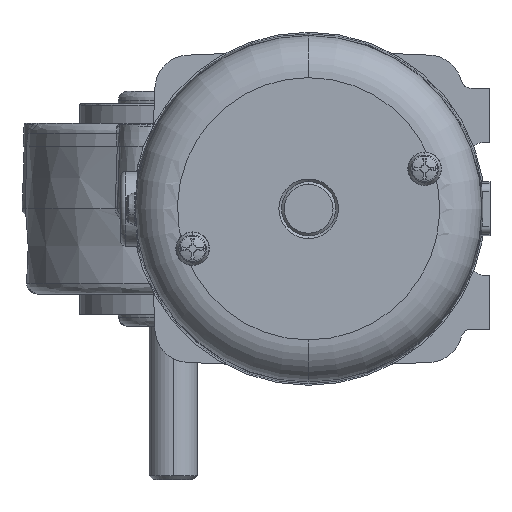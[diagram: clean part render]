
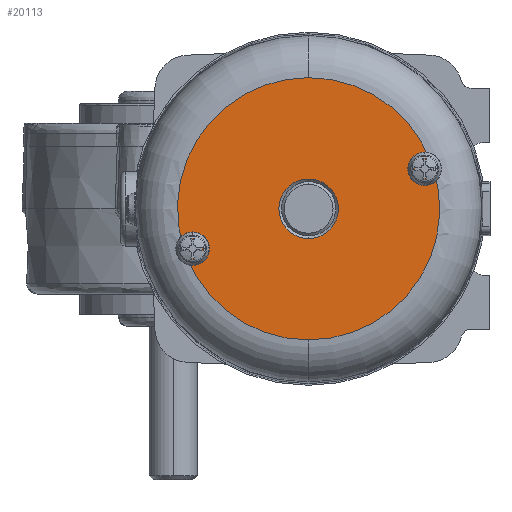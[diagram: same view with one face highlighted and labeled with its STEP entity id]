
A CAD part, left-side view. The second image highlights one B-rep face of the part: STEP entity #20113.
In plain terms, the highlighted planar face has unit normal (-1, 0, 0).
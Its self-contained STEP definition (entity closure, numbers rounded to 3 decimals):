
#1110 = AXIS2_PLACEMENT_3D ( 'NONE', #10936, #57179, #17523 ) ;
#2606 = CIRCLE ( 'NONE', #51367, 5.58 ) ;
#3211 = VERTEX_POINT ( 'NONE', #80034 ) ;
#3278 = EDGE_CURVE ( 'NONE', #85281, #12182, #3978, .T. ) ;
#3978 = CIRCLE ( 'NONE', #52759, 5.58 ) ;
#4322 = CARTESIAN_POINT ( 'NONE',  ( -15.474, 70.72, 117.43 ) ) ;
#5239 = EDGE_LOOP ( 'NONE', ( #68284, #67988, #28306, #10317, #23244, #24909 ) ) ;
#5391 = VERTEX_POINT ( 'NONE', #35784 ) ;
#5731 = EDGE_CURVE ( 'NONE', #72422, #60799, #61586, .T. ) ;
#6081 = DIRECTION ( 'NONE',  ( -1., 0., 0. ) ) ;
#7368 = VERTEX_POINT ( 'NONE', #81579 ) ;
#10317 = ORIENTED_EDGE ( 'NONE', *, *, #17426, .F. ) ;
#10936 = CARTESIAN_POINT ( 'NONE',  ( -15.474, 70.72, 117.43 ) ) ;
#10952 = PLANE ( 'NONE',  #22749 ) ;
#12182 = VERTEX_POINT ( 'NONE', #12613 ) ;
#12613 = CARTESIAN_POINT ( 'NONE',  ( -15.474, 70.72, 111.85 ) ) ;
#14644 = DIRECTION ( 'NONE',  ( 0., 0., -1. ) ) ;
#15508 = ORIENTED_EDGE ( 'NONE', *, *, #73400, .T. ) ;
#15735 = AXIS2_PLACEMENT_3D ( 'NONE', #53565, #40484, #33508 ) ;
#16600 = AXIS2_PLACEMENT_3D ( 'NONE', #61323, #21602, #14644 ) ;
#17426 = EDGE_CURVE ( 'NONE', #5391, #7368, #81433, .T. ) ;
#17493 = CARTESIAN_POINT ( 'NONE',  ( -15.474, 70.72, 123.01 ) ) ;
#17523 = DIRECTION ( 'NONE',  ( 0., 0., -1. ) ) ;
#17652 = CARTESIAN_POINT ( 'NONE',  ( -15.474, 70.72, 117.43 ) ) ;
#17903 = DIRECTION ( 'NONE',  ( 0., 1., 0. ) ) ;
#19323 = DIRECTION ( 'NONE',  ( 0., 1., 0. ) ) ;
#20113 = ADVANCED_FACE ( 'NONE', ( #51116, #30618 ), #10952, .T. ) ;
#21602 = DIRECTION ( 'NONE',  ( 1., 0., 0. ) ) ;
#22749 = AXIS2_PLACEMENT_3D ( 'NONE', #70413, #30198, #83563 ) ;
#23244 = ORIENTED_EDGE ( 'NONE', *, *, #48192, .F. ) ;
#24909 = ORIENTED_EDGE ( 'NONE', *, *, #51244, .F. ) ;
#25579 = DIRECTION ( 'NONE',  ( 1., 0., 0. ) ) ;
#25733 = CARTESIAN_POINT ( 'NONE',  ( -15.474, 92.419, 109.958 ) ) ;
#28306 = ORIENTED_EDGE ( 'NONE', *, *, #35675, .F. ) ;
#30198 = DIRECTION ( 'NONE',  ( -1., 0., 0. ) ) ;
#30239 = EDGE_CURVE ( 'NONE', #36483, #72422, #37441, .T. ) ;
#30618 = FACE_BOUND ( 'NONE', #35655, .T. ) ;
#30888 = AXIS2_PLACEMENT_3D ( 'NONE', #71052, #25579, #57013 ) ;
#32290 = CIRCLE ( 'NONE', #30888, 24.577 ) ;
#33508 = DIRECTION ( 'NONE',  ( 0., 0., -1. ) ) ;
#34091 = CARTESIAN_POINT ( 'NONE',  ( -15.474, 47.249, 124.723 ) ) ;
#34550 = CIRCLE ( 'NONE', #1110, 24.577 ) ;
#35655 = EDGE_LOOP ( 'NONE', ( #53902, #15508 ) ) ;
#35675 = EDGE_CURVE ( 'NONE', #7368, #36483, #34550, .T. ) ;
#35784 = CARTESIAN_POINT ( 'NONE',  ( -15.474, 93.705, 108.727 ) ) ;
#36483 = VERTEX_POINT ( 'NONE', #50230 ) ;
#37441 = CIRCLE ( 'NONE', #16600, 24.577 ) ;
#39397 = DIRECTION ( 'NONE',  ( -1., 0., 0. ) ) ;
#40484 = DIRECTION ( 'NONE',  ( 1., 0., 0. ) ) ;
#48192 = EDGE_CURVE ( 'NONE', #3211, #5391, #32290, .T. ) ;
#50230 = CARTESIAN_POINT ( 'NONE',  ( -15.474, 70.72, 142.007 ) ) ;
#50634 = AXIS2_PLACEMENT_3D ( 'NONE', #25733, #6081, #17903 ) ;
#51036 = DIRECTION ( 'NONE',  ( 1., 0., 0. ) ) ;
#51116 = FACE_OUTER_BOUND ( 'NONE', #5239, .T. ) ;
#51244 = EDGE_CURVE ( 'NONE', #60799, #3211, #68715, .T. ) ;
#51367 = AXIS2_PLACEMENT_3D ( 'NONE', #17652, #56506, #70065 ) ;
#52759 = AXIS2_PLACEMENT_3D ( 'NONE', #4322, #51036, #76893 ) ;
#53565 = CARTESIAN_POINT ( 'NONE',  ( -15.474, 70.72, 117.43 ) ) ;
#53902 = ORIENTED_EDGE ( 'NONE', *, *, #3278, .T. ) ;
#56506 = DIRECTION ( 'NONE',  ( 1., 0., 0. ) ) ;
#57013 = DIRECTION ( 'NONE',  ( 0., 0., -1. ) ) ;
#57179 = DIRECTION ( 'NONE',  ( 1., 0., 0. ) ) ;
#60799 = VERTEX_POINT ( 'NONE', #34091 ) ;
#61323 = CARTESIAN_POINT ( 'NONE',  ( -15.474, 70.72, 117.43 ) ) ;
#61586 = CIRCLE ( 'NONE', #62962, 1.78 ) ;
#61820 = CARTESIAN_POINT ( 'NONE',  ( -15.474, 47.735, 126.133 ) ) ;
#62962 = AXIS2_PLACEMENT_3D ( 'NONE', #77524, #39397, #19323 ) ;
#67988 = ORIENTED_EDGE ( 'NONE', *, *, #30239, .F. ) ;
#68284 = ORIENTED_EDGE ( 'NONE', *, *, #5731, .F. ) ;
#68715 = CIRCLE ( 'NONE', #15735, 24.577 ) ;
#70065 = DIRECTION ( 'NONE',  ( 0., 0., -1. ) ) ;
#70413 = CARTESIAN_POINT ( 'NONE',  ( -15.474, 70.72, 92.852 ) ) ;
#71052 = CARTESIAN_POINT ( 'NONE',  ( -15.474, 70.72, 117.43 ) ) ;
#72422 = VERTEX_POINT ( 'NONE', #61820 ) ;
#73400 = EDGE_CURVE ( 'NONE', #12182, #85281, #2606, .T. ) ;
#76893 = DIRECTION ( 'NONE',  ( 0., 0., -1. ) ) ;
#77524 = CARTESIAN_POINT ( 'NONE',  ( -15.474, 49.02, 124.902 ) ) ;
#80034 = CARTESIAN_POINT ( 'NONE',  ( -15.474, 70.72, 92.852 ) ) ;
#81433 = CIRCLE ( 'NONE', #50634, 1.78 ) ;
#81579 = CARTESIAN_POINT ( 'NONE',  ( -15.474, 94.19, 110.137 ) ) ;
#83563 = DIRECTION ( 'NONE',  ( 0., 0., 1. ) ) ;
#85281 = VERTEX_POINT ( 'NONE', #17493 ) ;
